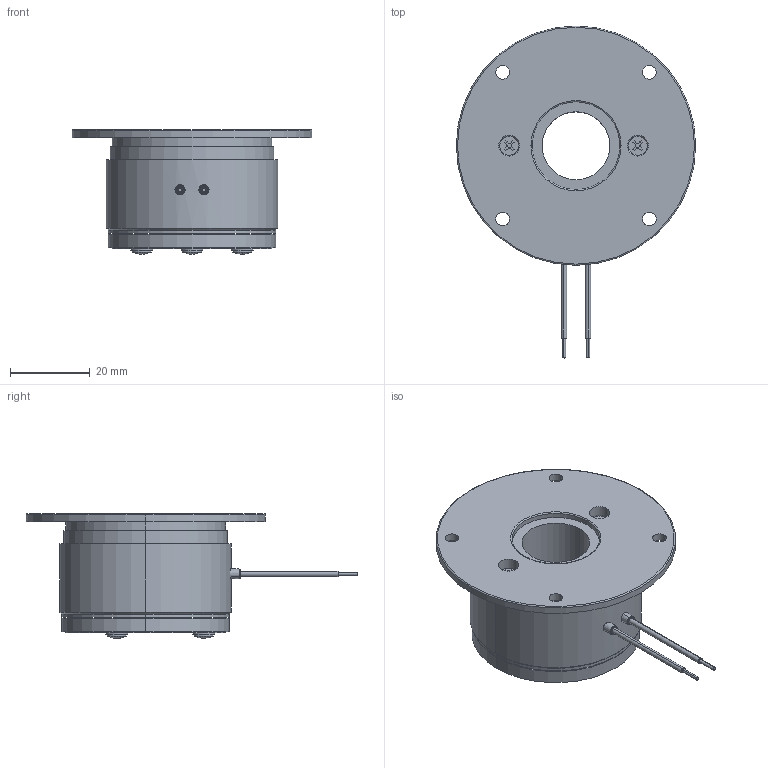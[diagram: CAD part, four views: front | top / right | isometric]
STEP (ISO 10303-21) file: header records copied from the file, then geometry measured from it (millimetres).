
FILE_DESCRIPTION (( 'STEP AP214' ), '1' );
FILE_NAME ('04P1110.STEP', '2026-04-23T06:24:35', ( '' ), ( '' ), 'SwSTEP 2.0', 'SolidWorks 2025', '' );
FILE_SCHEMA (( 'AUTOMOTIVE_DESIGN' ));
Length unit declared in the file: millimetre
Products named in the file (7): 10088627swa000; 10088625swp000; 10088629swp000; 04P1110; 10088626swp000_genietet (2,35mm Klemmlänge); 10088614swp000; 10088628swp000
Assembly tree (10 placements, depth 3):
  04P1110
    10088614swp000
    10088627swa000
      10088628swp000
      10088625swp000
      10088626swp000_genietet (2,35mm Klemmlänge)  x3
      10088629swp000  x3
Bounding box: 60 x 83.2 x 31.3 mm (x, y, z)
Volume: 37024.5 mm3; surface area: 16239.9 mm2
Topology: 11 solids, 11 shells, 251 faces, 574 edges, 356 vertices
Faces by surface type: cylinder 112, plane 55, cone 54, torus 24, sphere 6
Entity records: 6125 total; most frequent: DIRECTION 1118, CARTESIAN_POINT 1099, ORIENTED_EDGE 912, AXIS2_PLACEMENT_3D 459, EDGE_CURVE 456, VERTEX_POINT 288, EDGE_LOOP 252, CIRCLE 248
